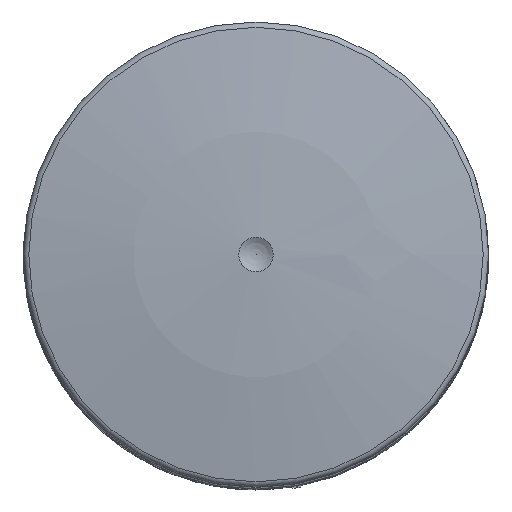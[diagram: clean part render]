
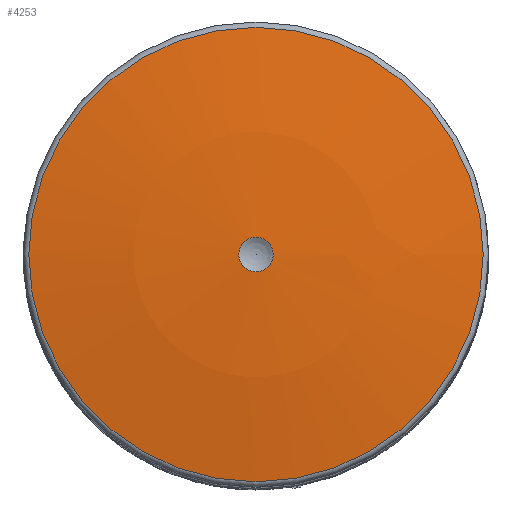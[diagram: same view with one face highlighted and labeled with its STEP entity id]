
A CAD part, top view. The second image highlights one B-rep face of the part: STEP entity #4253.
In plain terms, the highlighted spherical face has radius 220 mm.
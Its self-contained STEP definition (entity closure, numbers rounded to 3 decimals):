
#15=SPHERICAL_SURFACE('',#4699,220.);
#531=FACE_OUTER_BOUND('',#789,.T.);
#789=EDGE_LOOP('',(#3623,#3624,#3625,#3626,#3627,#3628,#3629));
#1498=CIRCLE('',#4686,2.687);
#1499=CIRCLE('',#4687,2.687);
#1505=CIRCLE('',#4695,35.411);
#1506=CIRCLE('',#4696,35.411);
#1508=CIRCLE('',#4698,35.411);
#1509=CIRCLE('',#4700,220.);
#1904=VERTEX_POINT('',#8246);
#1905=VERTEX_POINT('',#8247);
#1911=VERTEX_POINT('',#8263);
#1912=VERTEX_POINT('',#8264);
#1913=VERTEX_POINT('',#8266);
#2484=EDGE_CURVE('',#1904,#1905,#1498,.T.);
#2485=EDGE_CURVE('',#1905,#1904,#1499,.T.);
#2492=EDGE_CURVE('',#1911,#1912,#1505,.T.);
#2493=EDGE_CURVE('',#1912,#1913,#1506,.T.);
#2495=EDGE_CURVE('',#1913,#1911,#1508,.T.);
#2496=EDGE_CURVE('',#1912,#1905,#1509,.T.);
#3623=ORIENTED_EDGE('',*,*,#2492,.F.);
#3624=ORIENTED_EDGE('',*,*,#2495,.F.);
#3625=ORIENTED_EDGE('',*,*,#2493,.F.);
#3626=ORIENTED_EDGE('',*,*,#2496,.T.);
#3627=ORIENTED_EDGE('',*,*,#2485,.T.);
#3628=ORIENTED_EDGE('',*,*,#2484,.T.);
#3629=ORIENTED_EDGE('',*,*,#2496,.F.);
#4253=ADVANCED_FACE('',(#531),#15,.T.);
#4686=AXIS2_PLACEMENT_3D('',#8248,#5788,#5789);
#4687=AXIS2_PLACEMENT_3D('',#8249,#5790,#5791);
#4695=AXIS2_PLACEMENT_3D('',#8265,#5807,#5808);
#4696=AXIS2_PLACEMENT_3D('',#8267,#5809,#5810);
#4698=AXIS2_PLACEMENT_3D('',#8269,#5813,#5814);
#4699=AXIS2_PLACEMENT_3D('',#8270,#5815,#5816);
#4700=AXIS2_PLACEMENT_3D('',#8271,#5817,#5818);
#5788=DIRECTION('center_axis',(0.,0.,-1.));
#5789=DIRECTION('ref_axis',(0.,1.,0.));
#5790=DIRECTION('center_axis',(0.,0.,-1.));
#5791=DIRECTION('ref_axis',(0.,1.,0.));
#5807=DIRECTION('center_axis',(0.,0.,-1.));
#5808=DIRECTION('ref_axis',(0.,-1.,0.));
#5809=DIRECTION('center_axis',(0.,0.,-1.));
#5810=DIRECTION('ref_axis',(0.,-1.,0.));
#5813=DIRECTION('center_axis',(0.,0.,-1.));
#5814=DIRECTION('ref_axis',(0.,-1.,0.));
#5815=DIRECTION('center_axis',(0.,0.,-1.));
#5816=DIRECTION('ref_axis',(-1.,0.,0.));
#5817=DIRECTION('center_axis',(0.,-1.,0.));
#5818=DIRECTION('ref_axis',(1.,0.,0.));
#8246=CARTESIAN_POINT('',(0.,2.687,243.284));
#8247=CARTESIAN_POINT('',(2.687,0.,243.284));
#8248=CARTESIAN_POINT('Origin',(0.,0.,
243.284));
#8249=CARTESIAN_POINT('Origin',(0.,0.,
243.284));
#8263=CARTESIAN_POINT('',(0.,35.411,240.431));
#8264=CARTESIAN_POINT('',(35.411,0.,240.431));
#8265=CARTESIAN_POINT('Origin',(0.,0.,
240.431));
#8266=CARTESIAN_POINT('',(-35.411,0.,240.431));
#8267=CARTESIAN_POINT('Origin',(0.,0.,
240.431));
#8269=CARTESIAN_POINT('Origin',(0.,0.,
240.431));
#8270=CARTESIAN_POINT('Origin',(0.,0.,
23.3));
#8271=CARTESIAN_POINT('Origin',(0.,0.,
23.3));
